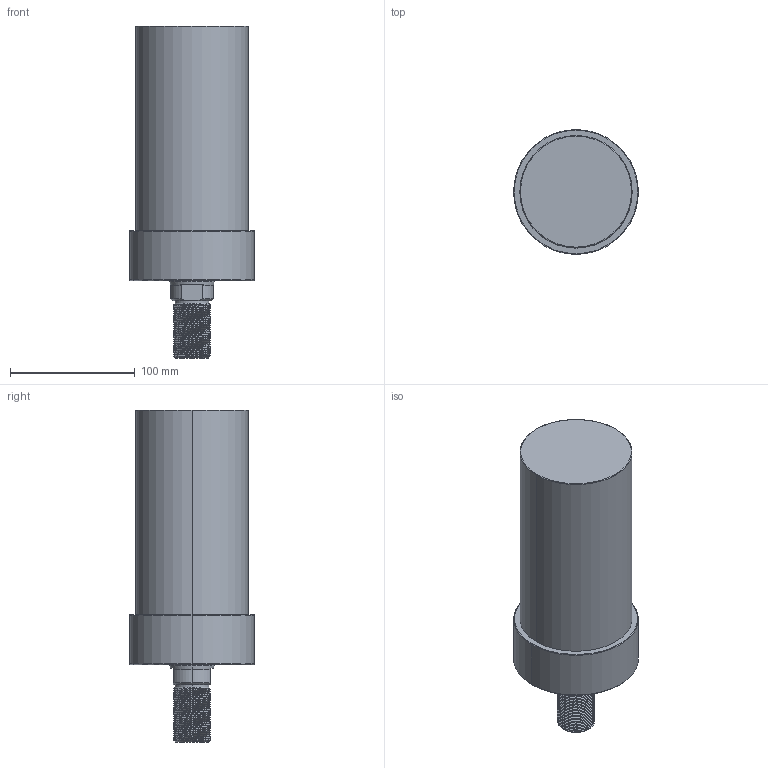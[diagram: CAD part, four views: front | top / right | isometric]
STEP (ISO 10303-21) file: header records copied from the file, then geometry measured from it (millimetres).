
FILE_DESCRIPTION (( 'STEP AP203' ), '1' );
FILE_NAME ('CLLU-090GT-120.STEP', '2020-01-15T01:32:34', ( '' ), ( '' ), 'SwSTEP 2.0', 'SolidWorks 2015', '' );
FILE_SCHEMA (( 'CONFIG_CONTROL_DESIGN' ));
Length unit declared in the file: millimetre
Products named in the file (1): CLLU-090GT-120
Bounding box: 100 x 100 x 266 mm (x, y, z)
Volume: 1395273.7 mm3; surface area: 86624.4 mm2
Topology: 1 solids, 1 shells, 125 faces, 326 edges, 204 vertices
Faces by surface type: cylinder 79, cone 26, plane 12, torus 6, bspline 2
Entity records: 7191 total; most frequent: CARTESIAN_POINT 4402, ORIENTED_EDGE 636, DIRECTION 515, EDGE_CURVE 318, VERTEX_POINT 204, AXIS2_PLACEMENT_3D 202, EDGE_LOOP 134, FACE_OUTER_BOUND 125
